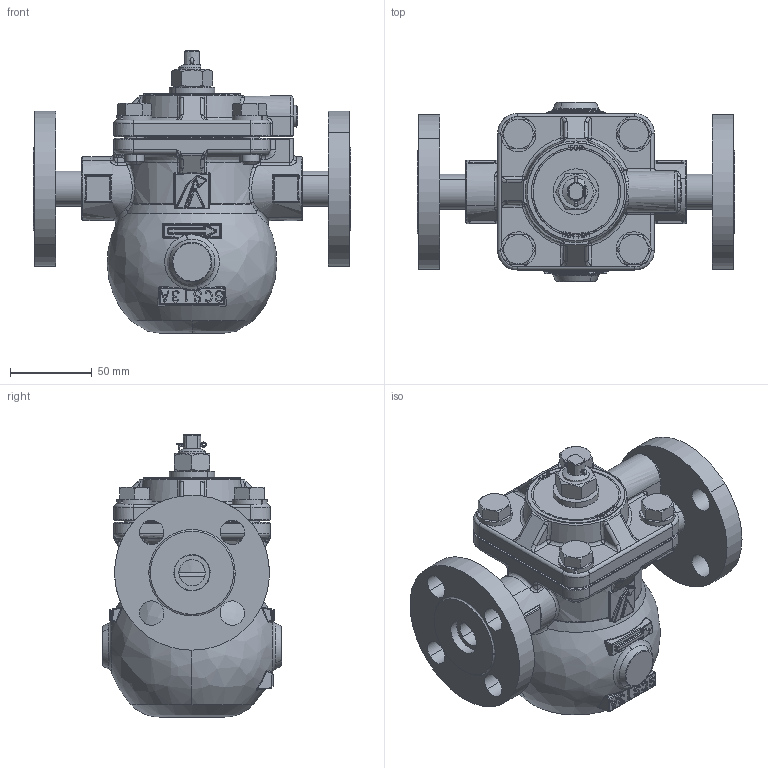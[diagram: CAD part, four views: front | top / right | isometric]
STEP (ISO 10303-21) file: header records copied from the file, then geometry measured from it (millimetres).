
FILE_DESCRIPTION((''),'2;1');
FILE_NAME('','2020-10-13T10:11:25',(''),(''),'','CADfix','');
FILE_SCHEMA(('AUTOMOTIVE_DESIGN { 1 0 10303 214 1 1 1 1 }'));
Length unit declared in the file: millimetre
Products named in the file (15): 　コック 埋め; 本体 15A SW 埋め; ふた 埋め; CP_SUS＿'_SUS304TP 15AxSch40x34.7_5126; SOP 20K 15A; CP_'_JIS B 1180 呼び径六角ボルト'_17166; CP_'_JIS B 1180 呼び径六角ボルト'_17168; SSLW12; テーパプラグMSWTS2; 3D　TSF-10　割りピン; 3D　TSF-10　銘板文字; 3D　TSF-10　六角ナット; 3D　TSF-10　銘板; 3D　TSF-10　カラー; TSF-10SF JIS20K 15A_38
Assembly tree (21 placements, depth 2):
  TSF-10SF JIS20K 15A_38
    　コック 埋め
    本体 15A SW 埋め
    ふた 埋め
    CP_SUS＿'_SUS304TP 15AxSch40x34.7_5126  x2
    SOP 20K 15A  x2
    CP_'_JIS B 1180 呼び径六角ボルト'_17166  x3
    CP_'_JIS B 1180 呼び径六角ボルト'_17168
    SSLW12  x4
    テーパプラグMSWTS2
    3D　TSF-10　割りピン
    3D　TSF-10　銘板文字
    3D　TSF-10　六角ナット
    3D　TSF-10　銘板
    3D　TSF-10　カラー
Bounding box: 195 x 110 x 173 mm (x, y, z)
Volume: 1209371.6 mm3; surface area: 163357.7 mm2
Topology: 21 solids, 21 shells, 1609 faces, 4500 edges, 2914 vertices
Faces by surface type: bspline 1609
Entity records: 76012 total; most frequent: CARTESIAN_POINT 46297, ORIENTED_EDGE 8286, STYLED_ITEM 4977, EDGE_CURVE 4143, VERTEX_POINT 2656, B_SPLINE_CURVE_WITH_KNOTS 1908, QUASI_UNIFORM_CURVE 1887, EDGE_LOOP 1585
